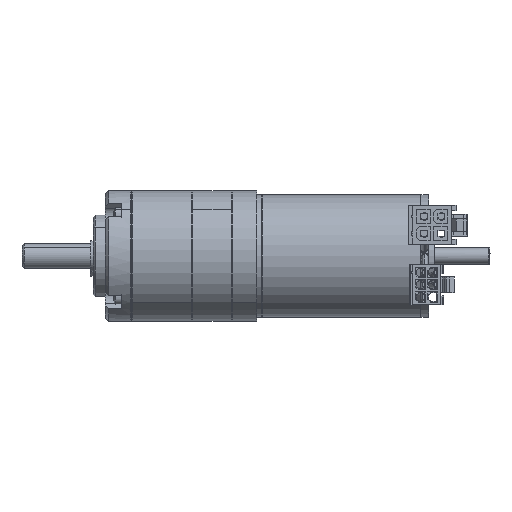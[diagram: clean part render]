
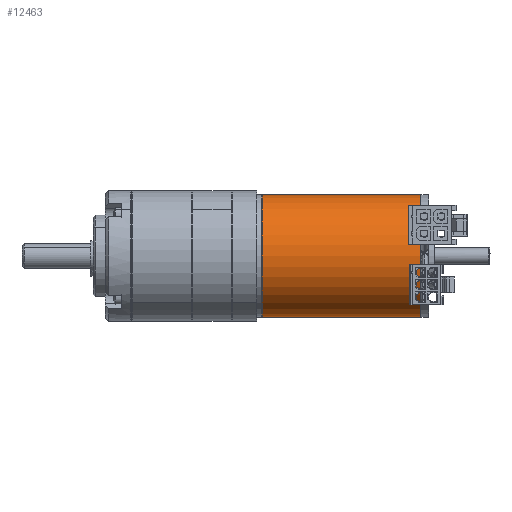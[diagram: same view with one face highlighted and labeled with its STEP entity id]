
A CAD part, front view. The second image highlights one B-rep face of the part: STEP entity #12463.
In plain terms, the highlighted cylindrical face has radius 15 mm (diameter 30 mm), a partial arc.
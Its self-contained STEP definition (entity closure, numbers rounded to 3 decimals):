
#4677 = CIRCLE ( 'NONE', #10384, 15. ) ;
#6892 = EDGE_CURVE ( 'NONE', #8319, #66249, #4677, .T. ) ;
#8319 = VERTEX_POINT ( 'NONE', #56813 ) ;
#10384 = AXIS2_PLACEMENT_3D ( 'NONE', #16370, #30162, #22844 ) ;
#12463 = ADVANCED_FACE ( 'NONE', ( #66684 ), #64494, .T. ) ;
#12555 = VERTEX_POINT ( 'NONE', #76713 ) ;
#14923 = ORIENTED_EDGE ( 'NONE', *, *, #57523, .T. ) ;
#16370 = CARTESIAN_POINT ( 'NONE',  ( 1.409, 0., 0. ) ) ;
#18577 = DIRECTION ( 'NONE',  ( -1., 0., 0. ) ) ;
#19745 = EDGE_LOOP ( 'NONE', ( #40092, #14923, #39648, #78475 ) ) ;
#22844 = DIRECTION ( 'NONE',  ( 0., 0., 1. ) ) ;
#22893 = CARTESIAN_POINT ( 'NONE',  ( 60.85, 0., 0. ) ) ;
#29258 = EDGE_CURVE ( 'NONE', #12555, #66249, #75915, .T. ) ;
#30162 = DIRECTION ( 'NONE',  ( 1., 0., 0. ) ) ;
#32936 = VECTOR ( 'NONE', #58518, 1000. ) ;
#35620 = CARTESIAN_POINT ( 'NONE',  ( 1.409, 0., -15. ) ) ;
#36627 = DIRECTION ( 'NONE',  ( -1., 0., 0. ) ) ;
#39648 = ORIENTED_EDGE ( 'NONE', *, *, #80428, .T. ) ;
#40092 = ORIENTED_EDGE ( 'NONE', *, *, #29258, .F. ) ;
#42109 = AXIS2_PLACEMENT_3D ( 'NONE', #22893, #67935, #49317 ) ;
#48261 = CARTESIAN_POINT ( 'NONE',  ( 40., 0., 15. ) ) ;
#49276 = CARTESIAN_POINT ( 'NONE',  ( 40., 0., 0. ) ) ;
#49317 = DIRECTION ( 'NONE',  ( 0., 0., 1. ) ) ;
#50636 = CARTESIAN_POINT ( 'NONE',  ( 60.85, 0., -15. ) ) ;
#52817 = AXIS2_PLACEMENT_3D ( 'NONE', #49276, #36627, #75286 ) ;
#56813 = CARTESIAN_POINT ( 'NONE',  ( 1.409, 0., 15. ) ) ;
#57523 = EDGE_CURVE ( 'NONE', #12555, #78711, #63297, .T. ) ;
#58227 = CARTESIAN_POINT ( 'NONE',  ( 60.85, 0., 15. ) ) ;
#58518 = DIRECTION ( 'NONE',  ( -1., 0., 0. ) ) ;
#63297 = CIRCLE ( 'NONE', #52817, 15. ) ;
#64163 = LINE ( 'NONE', #58227, #32936 ) ;
#64494 = CYLINDRICAL_SURFACE ( 'NONE', #42109, 15. ) ;
#66249 = VERTEX_POINT ( 'NONE', #35620 ) ;
#66684 = FACE_OUTER_BOUND ( 'NONE', #19745, .T. ) ;
#67935 = DIRECTION ( 'NONE',  ( -1., 0., 0. ) ) ;
#75286 = DIRECTION ( 'NONE',  ( 0., 0., 1. ) ) ;
#75915 = LINE ( 'NONE', #50636, #78983 ) ;
#76713 = CARTESIAN_POINT ( 'NONE',  ( 40., 0., -15. ) ) ;
#78475 = ORIENTED_EDGE ( 'NONE', *, *, #6892, .T. ) ;
#78711 = VERTEX_POINT ( 'NONE', #48261 ) ;
#78983 = VECTOR ( 'NONE', #18577, 1000. ) ;
#80428 = EDGE_CURVE ( 'NONE', #78711, #8319, #64163, .T. ) ;
